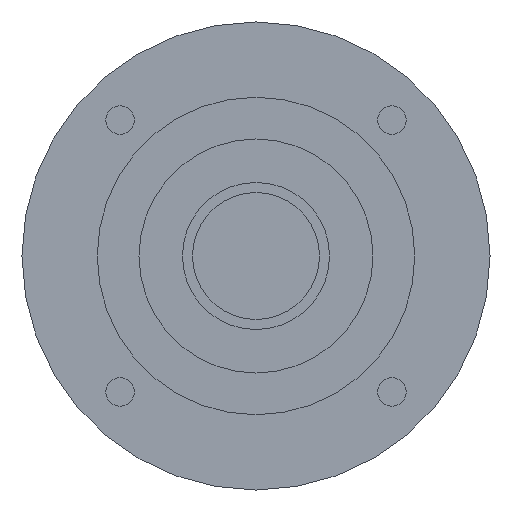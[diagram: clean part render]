
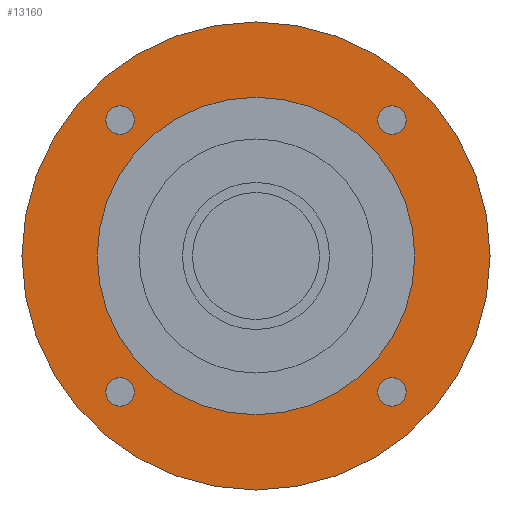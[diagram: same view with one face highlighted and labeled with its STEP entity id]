
A CAD part, left-side view. The second image highlights one B-rep face of the part: STEP entity #13160.
In plain terms, the highlighted planar face has unit normal (-1, 0, 0) as drawn and (0, 0, -1) by its records, which use the part's own axes.
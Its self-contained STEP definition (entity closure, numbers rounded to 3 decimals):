
#10060=CARTESIAN_POINT('',(-70.,0.,-84.701));
#10070=VERTEX_POINT('',#10060);
#10100=CARTESIAN_POINT('',(0.,0.,
-84.701));
#10110=DIRECTION('',(0.,0.,-1.));
#10120=DIRECTION('',(0.,-1.,0.));
#10130=AXIS2_PLACEMENT_3D('',#10100,#10110,#10120);
#10140=CIRCLE('',#10130,70.);
#10150=CARTESIAN_POINT('',(70.,0.,-84.701));
#10160=VERTEX_POINT('',#10150);
#10170=EDGE_CURVE('',#10070,#10160,#10140,.T.);
#12100=CARTESIAN_POINT('',(36.409,-40.659,-84.701));
#12110=VERTEX_POINT('',#12100);
#12140=CARTESIAN_POINT('',(40.659,-40.659,-84.701));
#12150=DIRECTION('',(0.,0.,-1.));
#12160=DIRECTION('',(1.,0.,0.));
#12170=AXIS2_PLACEMENT_3D('',#12140,#12150,#12160);
#12180=CIRCLE('',#12170,4.25);
#12190=CARTESIAN_POINT('',(44.909,-40.659,-84.701));
#12200=VERTEX_POINT('',#12190);
#12210=EDGE_CURVE('',#12200,#12110,#12180,.T.);
#12330=CARTESIAN_POINT('',(0.,0.,
-84.701));
#12340=DIRECTION('',(0.,0.,-1.));
#12350=DIRECTION('',(1.,0.,0.));
#12360=AXIS2_PLACEMENT_3D('',#12330,#12340,#12350);
#12370=PLANE('',#12360);
#12380=CARTESIAN_POINT('',(40.659,40.659,-84.701));
#12390=DIRECTION('',(0.,0.,-1.));
#12400=DIRECTION('',(0.,1.,0.));
#12410=AXIS2_PLACEMENT_3D('',#12380,#12390,#12400);
#12420=CIRCLE('',#12410,4.25);
#12430=CARTESIAN_POINT('',(40.659,44.909,-84.701));
#12440=VERTEX_POINT('',#12430);
#12450=CARTESIAN_POINT('',(40.659,36.409,-84.701));
#12460=VERTEX_POINT('',#12450);
#12470=EDGE_CURVE('',#12440,#12460,#12420,.T.);
#12480=ORIENTED_EDGE('',*,*,#12470,.F.);
#12490=EDGE_CURVE('',#12460,#12440,#12420,.T.);
#12500=ORIENTED_EDGE('',*,*,#12490,.F.);
#12510=EDGE_LOOP('',(#12500,#12480));
#12520=FACE_BOUND('',#12510,.T.);
#12530=CARTESIAN_POINT('',(-40.659,40.659,-84.701));
#12540=DIRECTION('',(0.,0.,-1.));
#12550=DIRECTION('',(-1.,0.,0.));
#12560=AXIS2_PLACEMENT_3D('',#12530,#12540,#12550);
#12570=CIRCLE('',#12560,4.25);
#12580=CARTESIAN_POINT('',(-44.909,40.659,-84.701));
#12590=VERTEX_POINT('',#12580);
#12600=CARTESIAN_POINT('',(-36.409,40.659,-84.701));
#12610=VERTEX_POINT('',#12600);
#12620=EDGE_CURVE('',#12590,#12610,#12570,.T.);
#12630=ORIENTED_EDGE('',*,*,#12620,.F.);
#12640=EDGE_CURVE('',#12610,#12590,#12570,.T.);
#12650=ORIENTED_EDGE('',*,*,#12640,.F.);
#12660=EDGE_LOOP('',(#12650,#12630));
#12670=FACE_BOUND('',#12660,.T.);
#12680=CARTESIAN_POINT('',(-40.659,-40.659,-84.701))
;
#12690=DIRECTION('',(0.,0.,-1.));
#12700=DIRECTION('',(0.,-1.,0.));
#12710=AXIS2_PLACEMENT_3D('',#12680,#12690,#12700);
#12720=CIRCLE('',#12710,4.25);
#12730=CARTESIAN_POINT('',(-40.659,-44.909,-84.701))
;
#12740=VERTEX_POINT('',#12730);
#12750=CARTESIAN_POINT('',(-40.659,-36.409,-84.701))
;
#12760=VERTEX_POINT('',#12750);
#12770=EDGE_CURVE('',#12740,#12760,#12720,.T.);
#12780=ORIENTED_EDGE('',*,*,#12770,.F.);
#12790=EDGE_CURVE('',#12760,#12740,#12720,.T.);
#12800=ORIENTED_EDGE('',*,*,#12790,.F.);
#12810=EDGE_LOOP('',(#12800,#12780));
#12820=FACE_BOUND('',#12810,.T.);
#12830=CARTESIAN_POINT('',(0.,0.,
-84.701));
#12840=DIRECTION('',(0.,0.,1.));
#12850=DIRECTION('',(0.,1.,0.));
#12860=AXIS2_PLACEMENT_3D('',#12830,#12840,#12850);
#12870=CIRCLE('',#12860,47.5);
#12880=CARTESIAN_POINT('',(-47.5,0.,-84.701));
#12890=VERTEX_POINT('',#12880);
#12900=CARTESIAN_POINT('',(47.5,0.,-84.701));
#12910=VERTEX_POINT('',#12900);
#12920=EDGE_CURVE('',#12890,#12910,#12870,.T.);
#12930=ORIENTED_EDGE('',*,*,#12920,.T.);
#12940=CARTESIAN_POINT('',(0.,47.5,-84.701));
#12950=VERTEX_POINT('',#12940);
#12960=EDGE_CURVE('',#12950,#12890,#12870,.T.);
#12970=ORIENTED_EDGE('',*,*,#12960,.T.);
#12980=EDGE_CURVE('',#12910,#12950,#12870,.T.);
#12990=ORIENTED_EDGE('',*,*,#12980,.T.);
#13000=EDGE_LOOP('',(#12990,#12970,#12930));
#13010=FACE_BOUND('',#13000,.T.);
#13020=ORIENTED_EDGE('',*,*,#12210,.F.);
#13030=EDGE_CURVE('',#12110,#12200,#12180,.T.);
#13040=ORIENTED_EDGE('',*,*,#13030,.F.);
#13050=EDGE_LOOP('',(#13040,#13020));
#13060=FACE_BOUND('',#13050,.T.);
#13070=ORIENTED_EDGE('',*,*,#10170,.T.);
#13080=CARTESIAN_POINT('',(0.,-70.,-84.701));
#13090=VERTEX_POINT('',#13080);
#13100=EDGE_CURVE('',#13090,#10070,#10140,.T.);
#13110=ORIENTED_EDGE('',*,*,#13100,.T.);
#13120=EDGE_CURVE('',#10160,#13090,#10140,.T.);
#13130=ORIENTED_EDGE('',*,*,#13120,.T.);
#13140=EDGE_LOOP('',(#13130,#13110,#13070));
#13150=FACE_OUTER_BOUND('',#13140,.T.);
#13160=ADVANCED_FACE('',(#12520,#12670,#12820,#13010,#13060,#13150),
#12370,.T.);
